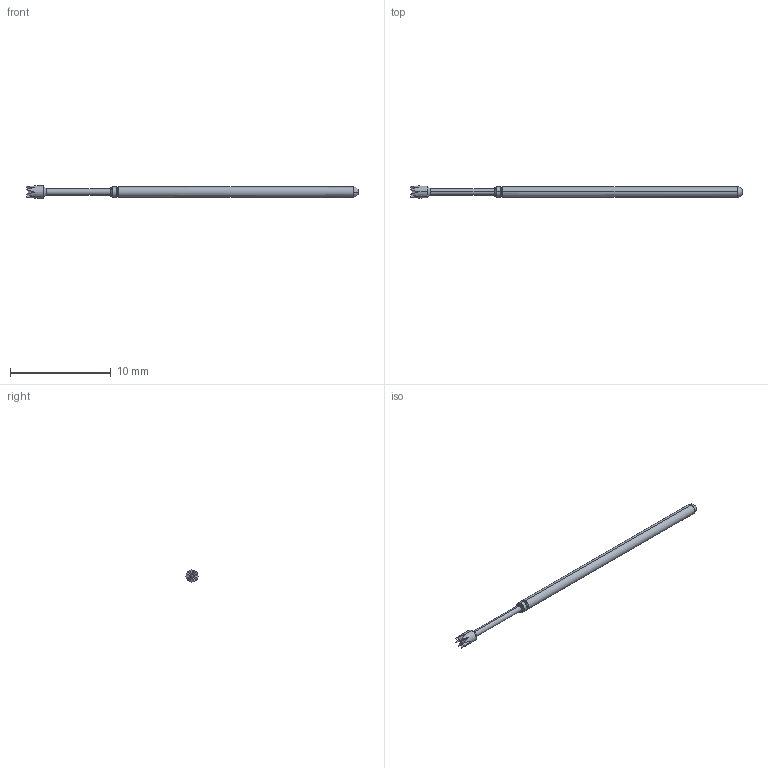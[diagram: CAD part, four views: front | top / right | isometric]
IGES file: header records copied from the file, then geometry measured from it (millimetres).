
Start section: SolidWorks IGES file using analytic representation for surfaces
Global section: file name: \\CODA-VM-SBS\RedirectedFolders\georged\My Documents\CODA FILES NEW\ATE TEST PROBES\LPA2 & ST-LPA2 SERIES\LF-LPA2Z.IGS; native system: SolidWorks 2022; preprocessor: SolidWorks 2022; author: GeorgeD; date: 230605.104911; units: inch
Bounding box: 33.02 x 1.19 x 1.19 mm (x, y, z)
Surface area: 102.4 mm2 (no closed solid volume)
Topology: 0 solids, 0 shells, 39 faces, 203 edges, 203 vertices
Faces by surface type: bspline 39
